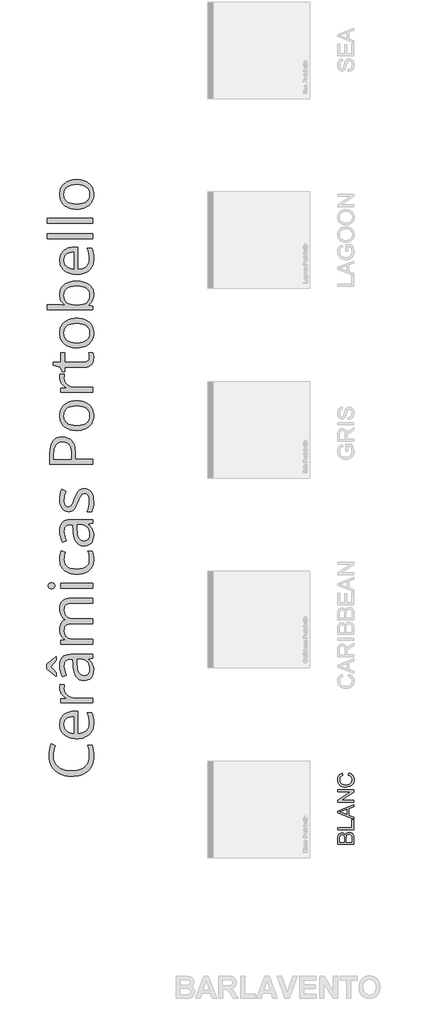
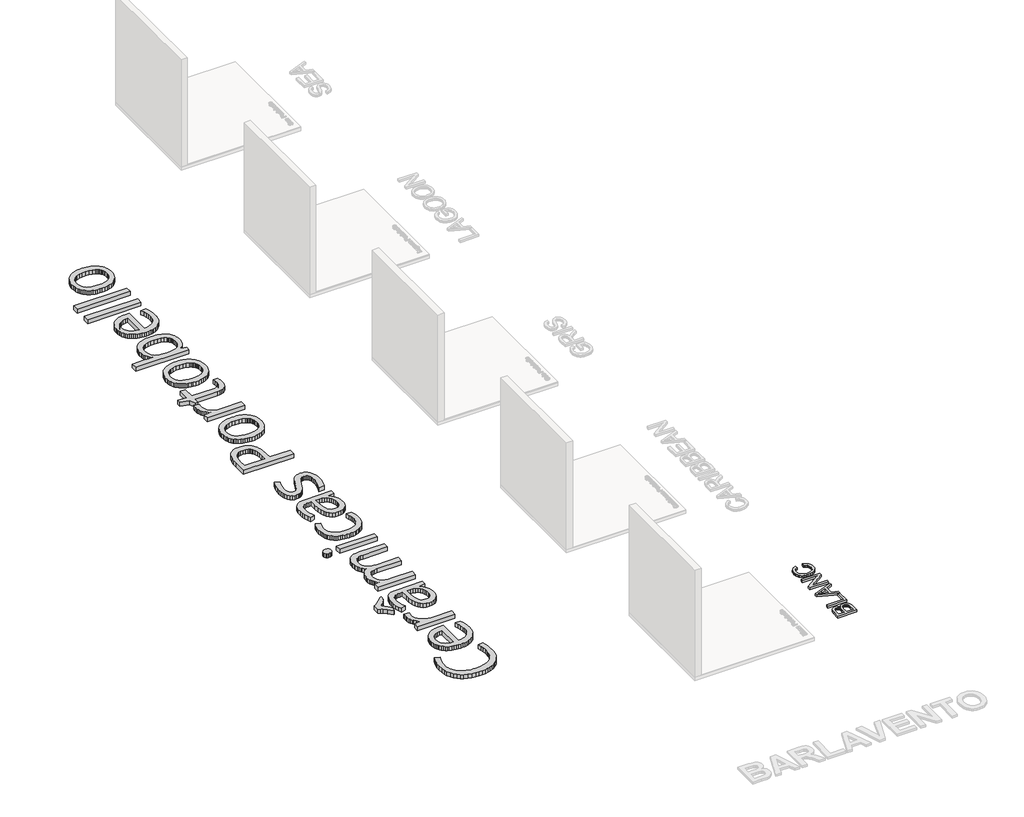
# One storey, part 2 of 7: 2 proxies.
"""IFC4 building model written with IfcOpenShell, lengths in millimetres."""

from ifc_helpers import new_model, si_unit, origin, origin_with_axes, place, context, project, spatial, polyline, outline, extrude, element, save

model = new_model("IFC4")

# Units and contexts
model_context = context("Model", 3, world=origin())
ifc_project = project(units=[si_unit("LENGTHUNIT", "METRE", prefix="MILLI")], contexts=[model_context])

# Site, building, storey
site = spatial("IfcSite", under=ifc_project)
building = spatial("IfcBuilding", under=site)
storey = spatial("IfcBuildingStorey", under=building, Name="PORTOBELLO - SHOWROOM", Elevation=0.0)

# Proxies
placement = place(None, origin())
element("IfcBuildingElementProxy", 1, Name="1200mm OpenSans", ObjectType="1200mm OpenSans", at=placement, inside=storey, context=model_context, shape_type="SweptSolid", body=[
    extrude(outline(polyline([(70089.8735067, -9882.2930273), (70091.994554, -9930.4771377), (70098.3576959, -9976.0585286), (70108.9629324, -10019.0372002), (70123.8102635, -10059.4131523), (70142.8996892, -10097.1863851), (70166.2312095, -10132.3568985), (70193.8048243, -10164.9246924), (70225.6205338, -10194.889767), (70261.1262459, -10221.7619997), (70299.7698686, -10245.0512681), (70341.5514019, -10264.757572), (70386.4708458, -10280.8809117), (70434.5282003, -10293.4212869), (70485.7234654, -10302.3786978), (70540.0566412, -10307.7531444), (70597.5277275, -10309.5446265), (70656.4691814, -10307.8179307), (70711.9685106, -10302.6378431), (70764.0257153, -10294.0043637), (70812.6407954, -10281.9174926), (70857.8137509, -10266.3772297), (70899.5445819, -10247.3835751), (70937.8332883, -10224.9365287), (70972.6798701, -10199.0360906), (71003.7350447, -10169.9414059), (71030.6495294, -10137.9116199), (71053.4233241, -10102.9467327), (71072.0564288, -10065.0467441), (71086.5488436, -10024.2116542), (71096.9005685, -9980.441463), (71103.1116034, -9933.7361705), (71105.1819484, -9884.0957767), (71102.3651525, -9818.9939903), (71093.9147648, -9749.5205367), (71079.8307854, -9675.6754159), (71060.1132143, -9597.4586279), (71176.931373, -9597.4586279), (71196.0179819, -9663.4843233), (71209.651274, -9736.8111537), (71217.8312492, -9817.439119), (71220.5579076, -9905.3682192), (71218.0199746, -9969.816509), (71210.4061753, -10030.479025), (71197.7165099, -10087.3557675), (71179.9509782, -10140.4467362), (71157.1095804, -10189.7519313), (71129.1923165, -10235.2713528), (71096.1991863, -10277.0050005), (71058.13019, -10314.9528746), (71015.3853125, -10348.7544252), (70968.3645388, -10378.0491024), (70917.0678691, -10402.8369061), (70861.4953031, -10423.1178365), (70801.646841, -10438.8918934), (70737.5224828, -10450.1590769), (70669.1222284, -10456.919387), (70596.4460779, -10459.1728237), (70505.6100444, -10454.8349581), (70420.5878775, -10441.8213611), (70341.3795773, -10420.1320328), (70267.9851439, -10389.7669732), (70201.5425626, -10351.2106712), (70143.1898192, -10304.9476157), (70092.9269135, -10250.9778066), (70050.7538455, -10189.301244), (70017.3917151, -10120.8756385), (69993.561622, -10046.6587006), (69979.2635661, -9966.6504304), (69974.4975474, -9880.8508279), (69978.4861304, -9789.3612976), (69990.4518793, -9703.8208403), (70010.3947941, -9624.2294559), (70038.3148749, -9550.5871444), (70154.0513841, -9609.7173236), (70125.9735627, -9677.8612495), (70105.9179761, -9746.0051754), (70093.8846241, -9814.1491014), (70089.8735067, -9882.2930273)])), origin_with_axes(), (0.0, 0.0, 1.0), 100.0),
    extrude(outline(polyline([(71220.5579076, -8974.4284478), (71218.6312193, -9023.0519783), (71212.8511541, -9069.050255), (71203.2177122, -9112.423278), (71189.7308935, -9153.1710472), (71172.3906981, -9191.2935626), (71151.1971259, -9226.7908243), (71126.1501769, -9259.6628323), (71097.2498512, -9289.9095864), (71064.9299352, -9317.0353308), (71029.6242157, -9340.5443092), (70991.3326925, -9360.4365217), (70950.0553656, -9376.7119683), (70905.7922352, -9389.370649), (70858.543301, -9398.4125638), (70808.3085633, -9403.8377126), (70755.0880219, -9405.6460956), (70701.3407397, -9403.9672852), (70650.4271542, -9398.9308542), (70602.3472653, -9390.5368025), (70557.1010731, -9378.7851301), (70514.6885775, -9363.675837), (70475.1097786, -9345.2089232), (70438.3646763, -9323.3843887), (70404.4532707, -9298.2022335), (70373.9896232, -9270.1920153), (70347.5877954, -9239.8832916), (70325.2477873, -9207.2760625), (70306.9695988, -9172.3703279), (70292.75323, -9135.1660879), (70282.5986809, -9095.6633425), (70276.5059514, -9053.8620916), (70274.4750416, -9009.7623353), (70276.2721573, -8968.4174054), (70281.6635047, -8929.2921106), (70290.6490835, -8892.3864509), (70303.2288939, -8857.7004265), (70319.4029359, -8825.2340371), (70339.1712094, -8794.987283), (70362.5337144, -8766.960164), (70389.490451, -8741.1526801), (70419.393556, -8717.998618), (70451.5951666, -8697.9317641), (70486.0952825, -8680.9521185), (70522.8939039, -8667.0596813), (70561.9910307, -8656.2544523), (70603.386663, -8648.5364315), (70647.0808007, -8643.9056191), (70693.0734438, -8642.362015), (70782.1292624, -8642.362015), (70782.1292624, -9263.9499956), (70856.6729486, -9257.4488307), (70921.6620631, -9241.9113846), (70977.0966061, -9217.3376574), (71001.2309132, -9201.6621883), (71022.9765774, -9183.7276489), (71042.2434612, -9163.6974134), (71058.9414272, -9141.7348559), (71084.6306056, -9092.012775), (71100.0441127, -9034.5614062), (71105.1819484, -8969.3807496), (71101.3736403, -8896.7524846), (71089.9487162, -8824.5298382), (71070.9071761, -8752.7128104), (71044.2490199, -8681.3014012), (71163.9515776, -8681.3014012), (71189.9562372, -8751.7889014), (71207.3978373, -8818.3103529), (71217.2678901, -8889.6090902), (71220.5579076, -8974.4284478)]), holes=[polyline([(70389.8510008, -9011.2045348), (70394.4480117, -9062.729365), (70408.2390444, -9108.7783441), (70431.2240987, -9149.351472), (70463.4031749, -9184.4487486), (70503.6946232, -9213.4842806), (70551.016794, -9235.8721742), (70605.3696873, -9251.6124296), (70666.7533031, -9260.7050467), (70666.7533031, -8788.7452633), (70603.6120066, -8792.350762), (70548.3126699, -8803.1672582), (70500.8552929, -8821.1947519), (70461.2398756, -8846.4332429), (70430.0072429, -8878.3644411), (70407.6982195, -8916.4700557), (70394.3128055, -8960.750087), (70389.8510008, -9011.2045348)])]), origin_with_axes(), (0.0, 0.0, 1.0), 100.0),
    extrude(outline(polyline([(70274.4750416, -7995.1749934), (70276.7284783, -7937.6672887), (70283.4887884, -7886.2889318), (70402.1096965, -7905.3980751), (70392.9156748, -7958.5791813), (70389.8510008, -8004.90984), (70395.4958598, -8058.2374196), (70412.4304366, -8107.5313475), (70440.6547314, -8152.7916237), (70480.168744, -8194.0182482), (70528.1106099, -8228.326822), (70581.6184644, -8252.8329462), (70640.6923076, -8267.5366207), (70705.3321395, -8272.4378455), (71197.4827158, -8272.4378455), (71197.4827158, -8408.7256974), (70297.5502334, -8408.7256974), (70297.5502334, -8296.2341371), (70459.0765764, -8280.7304926), (70459.0765764, -8274.2405949), (70417.2753255, -8247.53737), (70380.5668416, -8218.2652272), (70348.9511247, -8186.4241665), (70322.4281746, -8152.014188), (70301.4486789, -8115.4409103), (70286.4633248, -8077.109952), (70277.4721124, -8037.021313), (70274.4750416, -7995.1749934)])), origin_with_axes(), (0.0, 0.0, 1.0), 100.0),
    extrude(outline(polyline([(71197.4827158, -7155.8148896), (71065.8820122, -7183.21668), (71065.8820122, -7190.0671276), (71107.4804538, -7224.105289), (71141.7777605, -7258.0758473), (71168.7739322, -7291.9788025), (71188.468969, -7325.8141546), (71202.5078796, -7361.7226685), (71212.535673, -7401.8451091), (71218.552349, -7446.1814762), (71220.5579076, -7494.73177), (71216.0848358, -7558.8420443), (71202.6656202, -7615.6061149), (71180.3002609, -7665.0239818), (71148.9887579, -7707.0956451), (71109.4296766, -7740.6943863), (71062.3215822, -7764.6934872), (71007.664475, -7779.0929478), (70945.4583547, -7783.892768), (70878.9087353, -7776.9859845), (70820.7757019, -7756.265634), (70771.0592546, -7721.7317165), (70729.7593934, -7673.384232), (70696.8761183, -7611.2231805), (70672.4094292, -7535.248562), (70656.3593263, -7445.4603765), (70648.7258095, -7341.858624), (70643.6781113, -7187.1827286), (70589.5956303, -7187.1827286), (70541.9016425, -7190.0671276), (70500.8552929, -7198.7203245), (70466.4565816, -7213.1423194), (70438.7055086, -7233.3331123), (70417.3316615, -7259.8785967), (70402.0646278, -7293.3646661), (70392.9044076, -7333.7913206), (70389.8510008, -7381.1585601), (70394.1775993, -7440.153533), (70407.1573947, -7502.8441422), (70428.7903871, -7569.2303875), (70459.0765764, -7639.312269), (70353.7960136, -7681.857154), (70320.670494, -7611.2795164), (70295.5672091, -7534.392256), (70279.7480835, -7454.1699093), (70274.4750416, -7373.5870128), (70278.981915, -7297.3870506), (70292.5025352, -7231.7557066), (70315.0369022, -7176.6929807), (70329.6842408, -7153.1248496), (70346.5850161, -7132.198873), (70365.9702054, -7113.8192799), (70388.0707858, -7097.8902992), (70412.8867576, -7084.4119309), (70440.4181205, -7073.384175), (70503.6270201, -7058.6805005), (70577.6974845, -7053.7792757), (71197.4827158, -7053.7792757), (71197.4827158, -7155.8148896)]), holes=[polyline([(71105.1819484, -7467.6905296), (71100.8215483, -7406.4421199), (71087.7403483, -7352.1342954), (71065.9383482, -7304.7670558), (71035.415548, -7264.3404013), (70997.0507881, -7232.0035846), (70951.7229088, -7208.9058584), (70899.4319101, -7195.0472227), (70840.1777919, -7190.4276774), (70759.0540705, -7190.4276774), (70764.8228685, -7329.2393784), (70770.1409791, -7406.0590357), (70780.326513, -7471.3861658), (70795.3794702, -7525.2207686), (70815.2998507, -7567.5628443), (70840.7411511, -7599.5841799), (70872.356868, -7622.4565624), (70910.1470016, -7636.179992), (70954.1115517, -7640.7544685), (70988.8595457, -7637.9038711), (71019.1908037, -7629.3520788), (71045.1053258, -7615.0990916), (71066.603112, -7595.1449096), (71083.4813529, -7570.0754262), (71095.5372393, -7540.4765351), (71102.7707711, -7506.3482362), (71105.1819484, -7467.6905296)])]), origin_with_axes(), (0.0, 0.0, 1.0), 100.0),
    extrude(outline(polyline([(70162.704581, -7665.6324097), (70063.1928161, -7577.2976909), (69993.9672406, -7519.9702611), (69944.7521829, -7483.9152738), (69905.2719719, -7459.3978825), (69905.2719719, -7323.4705805), (69945.8338326, -7298.8179829), (69996.8516396, -7260.9151776), (70066.437765, -7201.9202046), (70162.704581, -7113.9911044), (70182.1742741, -7113.9911044), (70182.1742741, -7211.33957), (70154.4570027, -7249.6930628), (70118.5372216, -7292.6435664), (70022.0901306, -7392.3356062), (70119.7991462, -7492.8388832), (70155.4034461, -7534.9105465), (70182.1742741, -7571.5288929), (70182.1742741, -7665.6324097), (70162.704581, -7665.6324097)])), origin_with_axes(), (0.0, 0.0, 1.0), 100.0),
    extrude(outline(polyline([(71197.4827158, -5620.2329816), (70606.9020242, -5620.2329816), (70556.0306906, -5623.1173806), (70511.9422015, -5631.7705776), (70474.6365569, -5646.1925725), (70444.1137567, -5666.3833653), (70420.373801, -5692.6584373), (70403.4166898, -5725.3332695), (70393.2424231, -5764.407862), (70389.8510008, -5809.8822147), (70394.4592789, -5869.5306843), (70408.2841131, -5920.841438), (70431.3255034, -5963.814476), (70463.5834498, -5998.4497981), (70505.4185022, -6025.1079543), (70557.1912105, -6044.1494945), (70618.9015747, -6055.5744186), (70690.5495947, -6059.3827266), (71197.4827158, -6059.3827266), (71197.4827158, -6196.0311284), (70606.9020242, -6196.0311284), (70556.0306906, -6198.9155274), (70511.9422015, -6207.5687243), (70474.6365569, -6221.9907192), (70444.1137567, -6242.1815121), (70420.373801, -6268.5016528), (70403.4166898, -6301.3116912), (70393.2424231, -6340.6116274), (70389.8510008, -6386.4014612), (70394.6958898, -6446.4555494), (70409.2305565, -6497.9015094), (70433.4550011, -6540.7393411), (70449.2008901, -6558.9302089), (70467.3692235, -6574.9690447), (70512.3027514, -6601.1539792), (70569.5851124, -6619.8575038), (70639.2163066, -6631.0796186), (70721.1963339, -6634.8203235), (71197.4827158, -6634.8203235), (71197.4827158, -6771.1081754), (70297.5502334, -6771.1081754), (70297.5502334, -6660.0588146), (70412.9261927, -6638.0652724), (70412.9261927, -6631.5753747), (70382.0879114, -6610.1339244), (70354.8325945, -6584.74896), (70331.1602419, -6555.4204812), (70311.0708536, -6522.1484883), (70295.0601859, -6485.8568902), (70283.6239946, -6447.4695959), (70276.7622798, -6406.9866055), (70274.4750416, -6364.407919), (70276.8411501, -6313.7844634), (70283.9394757, -6267.7354843), (70295.7700184, -6226.2609818), (70312.3327782, -6189.3609558), (70333.6277551, -6157.0354062), (70359.654949, -6129.2843332), (70390.41436, -6106.1077367), (70425.9059881, -6087.5056167), (70425.9059881, -6081.015719), (70392.7579342, -6058.5602222), (70363.2604477, -6031.5753177), (70337.4135287, -6000.0610054), (70315.2171772, -5964.0172853), (70297.3924929, -5924.3680665), (70284.6605755, -5882.037258), (70277.021425, -5837.0248598), (70274.4750416, -5789.3308719), (70279.4100679, -5717.5251113), (70294.2151471, -5655.3415255), (70305.3189565, -5627.8580481), (70318.890279, -5602.7801143), (70334.9291148, -5580.1077243), (70353.4354637, -5559.8408779), (70374.6572039, -5541.9683081), (70398.8422133, -5526.4787475), (70425.990492, -5513.3721963), (70456.10204, -5502.6486544), (70525.2149437, -5488.3505985), (70606.1809245, -5483.5845799), (71197.4827158, -5483.5845799), (71197.4827158, -5620.2329816)])), origin_with_axes(), (0.0, 0.0, 1.0), 100.0),
    extrude(outline(polyline([(71197.4827158, -5069.6733259), (71197.4827158, -5205.9611778), (70297.5502334, -5205.9611778), (70297.5502334, -5069.6733259), (71197.4827158, -5069.6733259)])), origin_with_axes(), (0.0, 0.0, 1.0), 100.0),
    extrude(outline(polyline([(70043.3625731, -5217.4987738), (70021.1549544, -5216.0565743), (70002.1246814, -5211.7299758), (69986.2717542, -5204.5189783), (69973.5961728, -5194.4235819), (69956.9658099, -5168.4639911), (69951.4223556, -5136.7356023), (69957.0559473, -5106.1790006), (69973.9567226, -5080.1292723), (69986.7449759, -5069.7183947), (70002.5753688, -5062.2820535), (70021.4479012, -5057.8202489), (70043.3625731, -5056.3329806), (70065.2997795, -5057.8202489), (70084.239915, -5062.2820535), (70100.1829796, -5069.7183947), (70113.1289735, -5080.1292723), (70130.3001612, -5106.1790006), (70136.0238904, -5136.7356023), (70130.3001612, -5168.4639911), (70123.1454997, -5182.1648862), (70113.1289735, -5194.4235819), (70100.1829796, -5204.5189783), (70084.239915, -5211.7299758), (70065.2997795, -5216.0565743), (70043.3625731, -5217.4987738)])), origin_with_axes(), (0.0, 0.0, 1.0), 100.0),
    extrude(outline(polyline([(71220.5579076, -4399.7716624), (71218.6509368, -4447.6853603), (71212.9300244, -4492.8160639), (71203.3951703, -4535.1637732), (71190.0463747, -4574.7284881), (71172.8836374, -4611.5102087), (71151.9069584, -4645.508935), (71127.1163379, -4676.724667), (71098.5117757, -4705.1574046), (71066.4200203, -4730.5085675), (71031.1678198, -4752.4795754), (70992.7551744, -4771.0704282), (70951.182084, -4786.281126), (70906.4485486, -4798.1116687), (70858.5545682, -4806.5620563), (70807.5001429, -4811.6322889), (70753.2852726, -4813.3223664), (70697.6732715, -4811.6069377), (70645.3118529, -4806.4606517), (70596.2010167, -4797.8835082), (70550.3407629, -4785.8755074), (70507.7310917, -4770.4366491), (70468.3720028, -4751.5669335), (70432.2634964, -4729.2663605), (70399.4055725, -4703.5349302), (70370.1249793, -4674.6317876), (70344.7484652, -4642.8160782), (70323.2760302, -4608.0878017), (70305.7076743, -4570.4469584), (70292.0433975, -4529.8935481), (70282.2831997, -4486.4275709), (70276.4270811, -4440.0490267), (70274.4750416, -4390.7579156), (70277.8101279, -4325.1829075), (70287.8153869, -4259.6980368), (70302.3275192, -4201.3340262), (70319.1832258, -4157.121598), (70432.035336, -4199.3059331), (70415.4951105, -4247.12386), (70401.9294216, -4298.9979729), (70392.870606, -4349.7904363), (70389.8510008, -4394.3634143), (70395.4902262, -4459.3468953), (70412.4079023, -4515.6659121), (70440.604029, -4563.3204648), (70480.0786065, -4602.3105534), (70530.8316347, -4632.6361778), (70592.8631136, -4654.2973382), (70666.1730432, -4667.2940344), (70750.7614235, -4671.6262664), (70831.4119231, -4667.4010726), (70902.1022325, -4654.7254911), (70962.8323517, -4633.599522), (71013.6022807, -4604.0231653), (71035.0662653, -4586.1055267), (71053.6683853, -4566.1541615), (71069.4086407, -4544.1690696), (71082.2870315, -4520.1502511), (71092.3035576, -4494.097706), (71099.4582191, -4466.0114343), (71105.1819484, -4403.737711), (71102.1398088, -4346.4328156), (71093.0133902, -4288.4518892), (71077.8026924, -4229.7949317), (71056.5077155, -4170.4619433), (71175.1286237, -4170.4619433), (71195.0039354, -4219.0009699), (71209.2005867, -4273.398932), (71217.7185774, -4333.6558295), (71220.5579076, -4399.7716624)])), origin_with_axes(), (0.0, 0.0, 1.0), 100.0),
    extrude(outline(polyline([(71197.4827158, -3394.5586172), (71065.8820122, -3421.9604075), (71065.8820122, -3428.8108551), (71107.4804538, -3462.8490165), (71141.7777605, -3496.8195748), (71168.7739322, -3530.72253), (71188.468969, -3564.5578822), (71202.5078796, -3600.4663961), (71212.535673, -3640.5888366), (71218.552349, -3684.9252037), (71220.5579076, -3733.4754975), (71216.0848358, -3797.5857718), (71202.6656202, -3854.3498424), (71180.3002609, -3903.7677093), (71148.9887579, -3945.8393726), (71109.4296766, -3979.4381139), (71062.3215822, -4003.4372148), (71007.664475, -4017.8366753), (70945.4583547, -4022.6364955), (70878.9087353, -4015.729712), (70820.7757019, -3995.0093615), (70771.0592546, -3960.475444), (70729.7593934, -3912.1279595), (70696.8761183, -3849.966908), (70672.4094292, -3773.9922895), (70656.3593263, -3684.204104), (70648.7258095, -3580.6023515), (70643.6781113, -3425.9264561), (70589.5956303, -3425.9264561), (70541.9016425, -3428.8108551), (70500.8552929, -3437.464052), (70466.4565816, -3451.8860469), (70438.7055086, -3472.0768398), (70417.3316615, -3498.6223242), (70402.0646278, -3532.1083936), (70392.9044076, -3572.5350481), (70389.8510008, -3619.9022876), (70394.1775993, -3678.8972606), (70407.1573947, -3741.5878697), (70428.7903871, -3807.974115), (70459.0765764, -3878.0559965), (70353.7960136, -3920.6008815), (70320.670494, -3850.0232439), (70295.5672091, -3773.1359835), (70279.7480835, -3692.9136369), (70274.4750416, -3612.3307403), (70278.981915, -3536.1307781), (70292.5025352, -3470.4994341), (70315.0369022, -3415.4367082), (70329.6842408, -3391.8685771), (70346.5850161, -3370.9426005), (70365.9702054, -3352.5630074), (70388.0707858, -3336.6340267), (70412.8867576, -3323.1556584), (70440.4181205, -3312.1279025), (70503.6270201, -3297.424228), (70577.6974845, -3292.5230032), (71197.4827158, -3292.5230032), (71197.4827158, -3394.5586172)]), holes=[polyline([(71105.1819484, -3706.4342571), (71100.8215483, -3645.1858475), (71087.7403483, -3590.8780229), (71065.9383482, -3543.5107833), (71035.415548, -3503.0841289), (70997.0507881, -3470.7473121), (70951.7229088, -3447.6495859), (70899.4319101, -3433.7909502), (70840.1777919, -3429.1714049), (70759.0540705, -3429.1714049), (70764.8228685, -3567.983106), (70770.1409791, -3644.8027632), (70780.326513, -3710.1298933), (70795.3794702, -3763.9644962), (70815.2998507, -3806.3065718), (70840.7411511, -3838.3279074), (70872.356868, -3861.20029), (70910.1470016, -3874.9237195), (70954.1115517, -3879.498196), (70988.8595457, -3876.6475986), (71019.1908037, -3868.0958063), (71045.1053258, -3853.8428191), (71066.603112, -3833.8886371), (71083.4813529, -3808.8191538), (71095.5372393, -3779.2202627), (71102.7707711, -3745.0919638), (71105.1819484, -3706.4342571)])]), origin_with_axes(), (0.0, 0.0, 1.0), 100.0),
    extrude(outline(polyline([(70954.8326514, -2425.0400094), (71014.9881443, -2430.9327463), (71042.3195147, -2438.2986676), (71067.8199678, -2448.6109573), (71091.4895036, -2461.8696155), (71113.3281221, -2478.0746422), (71133.3358232, -2497.2260374), (71151.512607, -2519.3238011), (71181.719926, -2571.2091812), (71203.2965825, -2632.5815299), (71216.2425764, -2703.440847), (71220.5579076, -2783.7871327), (71216.9974777, -2868.8092996), (71206.3161877, -2943.9614137), (71188.5140377, -3009.243475), (71163.5910278, -3064.6554836), (71035.9563728, -3064.6554836), (71064.6651564, -2996.962245), (71086.6136299, -2924.4015831), (71100.5398688, -2850.8494091), (71105.1819484, -2780.181634), (71103.0411835, -2729.4004379), (71096.6188889, -2684.8612614), (71085.9150645, -2646.5641046), (71070.9297105, -2614.5089675), (71051.5501548, -2589.1916061), (71027.6637257, -2571.1077765), (70999.2704233, -2560.2574788), (70966.3702474, -2556.6407129), (70940.6585346, -2559.5138447), (70916.8847773, -2568.1332401), (70895.0489757, -2582.4988991), (70875.1511296, -2602.6108217), (70855.3659553, -2631.0379257), (70833.8681691, -2670.349129), (70785.7347611, -2781.6238335), (70741.2068518, -2889.8789328), (70702.8082904, -2961.53822), (70665.08576, -3008.0942223), (70644.4330126, -3026.2681893), (70622.5859437, -3041.0394669), (70599.026263, -3052.4756582), (70573.2356799, -3060.6443663), (70545.2141944, -3065.5455911), (70514.9618067, -3067.1793327), (70462.1863191, -3061.545741), (70415.2697669, -3044.6449657), (70374.2121501, -3016.4770069), (70339.0134688, -2977.0418645), (70310.7779069, -2927.7817382), (70290.6096484, -2870.1388273), (70278.5086933, -2804.1131318), (70274.4750416, -2729.7046518), (70278.2157465, -2657.0763868), (70289.4378613, -2585.2142903), (70308.1413859, -2514.1183623), (70334.3263204, -2443.7886027), (70445.7362311, -2492.8233854), (70421.2864429, -2559.5251119), (70403.8223084, -2622.9818895), (70393.3438277, -2683.1937182), (70389.8510008, -2740.1605981), (70391.7776892, -2786.0180351), (70397.5577544, -2825.8813304), (70407.1911963, -2859.750484), (70420.678015, -2887.6254961), (70437.5675231, -2909.3936947), (70457.4090332, -2924.9424079), (70480.2025455, -2934.2716359), (70505.9480599, -2937.3813785), (70539.9749541, -2932.7392989), (70568.5034628, -2918.8130601), (70593.6518164, -2894.5210124), (70617.5382455, -2858.7815063), (70646.0667542, -2798.2992651), (70685.1413466, -2699.7790124), (70714.7515049, -2625.7198151), (70744.4518007, -2564.7080163), (70774.2422339, -2516.743616), (70804.1228046, -2481.8266143), (70835.9863996, -2456.9824746), (70871.7259058, -2439.2366606), (70911.341323, -2428.5891722), (70954.8326514, -2425.0400094)])), origin_with_axes(), (0.0, 0.0, 1.0), 100.0),
    extrude(outline(polyline([(70341.176768, -979.9561194), (70384.5976765, -981.9053421), (70425.4440336, -987.7530104), (70463.7158392, -997.4991241), (70499.4130934, -1011.1436834), (70532.5357962, -1028.6866881), (70563.0839475, -1050.1281384), (70591.0575474, -1075.4680341), (70616.4565959, -1104.7063754), (70639.0613828, -1137.5783833), (70658.6521982, -1173.8192791), (70675.2290419, -1213.4290628), (70688.7919141, -1256.4077343), (70699.3408147, -1302.7552937), (70706.8757436, -1352.471741), (70711.396701, -1405.5570762), (70712.9036868, -1462.0112992), (70712.9036868, -1603.7073992), (71197.4827158, -1603.7073992), (71197.4827158, -1743.2402), (69997.5727393, -1743.2402), (69997.5727393, -1431.0040102), (70002.9415522, -1325.2896608), (70019.0479911, -1233.670558), (70045.8920558, -1156.1467017), (70083.4737465, -1092.7180921), (70131.793063, -1043.384729), (70190.8500055, -1008.1466126), (70260.6445738, -987.0037427), (70341.176768, -979.9561194)]), holes=[polyline([(70597.5277275, -1603.7073992), (70597.5277275, -1477.5149438), (70593.809557, -1390.7576306), (70582.6550453, -1316.8899755), (70564.0641925, -1255.9119782), (70538.0369985, -1207.823639), (70522.0375979, -1188.3032435), (70503.7847606, -1171.3855675), (70483.2784866, -1157.0706108), (70460.5187759, -1145.3583735), (70408.2390444, -1129.7420571), (70346.945566, -1124.5366184), (70291.5898933, -1129.4378432), (70243.7832336, -1144.1415177), (70203.5255869, -1168.6476419), (70170.8169532, -1202.9562157), (70145.4995918, -1247.608064), (70127.4157622, -1303.1440116), (70116.5654645, -1369.5640584), (70112.9486986, -1446.8682046), (70112.9486986, -1603.7073992), (70597.5277275, -1603.7073992)])]), origin_with_axes(), (0.0, 0.0, 1.0), 100.0),
    extrude(outline(polyline([(70746.7953749, 27.4202251), (70801.0609475, 25.6878956), (70852.2674798, 20.4909072), (70900.4149718, 11.8292599), (70945.5034235, -0.2970464), (70987.5328348, -15.8880116), (71026.5032058, -34.9436357), (71062.4145365, -57.4639188), (71095.2668269, -83.4488608), (71124.6319239, -112.481576), (71150.0816747, -144.1451784), (71171.6160792, -178.4396683), (71189.2351375, -215.3650455), (71202.9388494, -254.9213101), (71212.7272151, -297.108462), (71218.6002345, -341.9265012), (71220.5579076, -389.3754278), (71216.9636761, -448.0661868), (71206.1809815, -503.3542564), (71188.2098238, -555.2396365), (71163.0502029, -603.7223272), (71131.1753408, -647.8333507), (71093.0584589, -686.6037292), (71048.6995574, -720.0334627), (70998.0986362, -748.1225512), (70942.1007341, -770.3639715), (70881.5508898, -786.2507003), (70816.4491034, -795.7827375), (70746.7953749, -798.9600833), (70692.5410694, -797.2418378), (70641.3683386, -792.0871013), (70593.2771826, -783.4958739), (70548.2676012, -771.4681555), (70506.3395945, -756.0039461), (70467.4931625, -737.1032457), (70431.7283052, -714.7660544), (70399.0450226, -688.9923721), (70369.8489333, -660.165283), (70344.5456559, -628.6678715), (70323.1351904, -594.5001375), (70305.6175368, -557.6620809), (70291.9926951, -518.1537019), (70282.2606654, -475.9750004), (70276.4214475, -431.1259764), (70274.4750416, -383.6066299), (70276.4665163, -337.6731394), (70282.4409403, -294.1564599), (70292.3983138, -253.0565912), (70306.3386366, -214.3735333), (70324.2619088, -178.1072864), (70346.1681303, -144.2578503), (70372.0573013, -112.825225), (70401.9294216, -83.8094107), (70435.1985977, -57.7399648), (70471.2789362, -35.146445), (70510.1704369, -16.0288514), (70551.8730999, -0.3871839), (70596.3869252, 11.7785575), (70643.7119128, 20.4683728), (70693.8480627, 25.682262), (70746.7953749, 27.4202251)]), holes=[polyline([(70745.7137252, -657.2639833), (70828.2796461, -652.9599192), (70900.3896207, -640.0477269), (70962.0436489, -618.5274063), (70988.9496831, -604.539198), (71013.2417308, -588.3989576), (71034.7902193, -570.1742882), (71053.465576, -549.932793), (71069.2678009, -527.674472), (71082.196894, -503.3993251), (71092.2528553, -477.1073523), (71099.4356848, -448.7985537), (71105.1819484, -386.130479), (71099.4582191, -323.4398699), (71092.3035576, -295.1029033), (71082.2870315, -268.7714954), (71069.4086407, -244.4456462), (71053.6683853, -222.1253556), (71035.0662653, -201.8106237), (71013.6022807, -183.5014505), (70989.3834697, -167.2767062), (70962.5168706, -153.2152612), (70900.840308, -131.5822688), (70828.5725929, -118.6024734), (70745.7137252, -114.2758749), (70663.6998964, -118.6024734), (70592.1645482, -131.5822688), (70531.1076807, -153.2152612), (70504.5086772, -167.2767062), (70480.5292938, -183.5014505), (70459.2765689, -201.8387917), (70440.8575407, -222.2380274), (70425.272209, -244.6991578), (70412.5205741, -269.2221827), (70402.6026358, -295.8071023), (70395.5183942, -324.4539164), (70389.8510008, -387.9332283), (70395.4395239, -450.5449672), (70402.4251777, -478.7833459), (70412.205093, -504.9767308), (70424.7792698, -529.1251219), (70440.1477081, -551.2285191), (70458.3104079, -571.2869226), (70479.2673693, -589.3003323), (70502.9904242, -605.229313), (70529.4514047, -619.0344296), (70590.5871425, -640.2730705), (70662.6745827, -653.0162551), (70745.7137252, -657.2639833)])]), origin_with_axes(), (0.0, 0.0, 1.0), 100.0),
    extrude(outline(polyline([(70274.4750416, 681.0971443), (70276.7284783, 738.6048491), (70283.4887884, 789.9832059), (70402.1096965, 770.8740627), (70392.9156748, 717.6929564), (70389.8510008, 671.3622978), (70395.4958598, 618.0347182), (70412.4304366, 568.7407903), (70440.6547314, 523.480514), (70480.168744, 482.2538895), (70528.1106099, 447.9453157), (70581.6184644, 423.4391915), (70640.6923076, 408.735517), (70705.3321395, 403.8342922), (71197.4827158, 403.8342922), (71197.4827158, 267.5464403), (70297.5502334, 267.5464403), (70297.5502334, 380.0380006), (70459.0765764, 395.5416451), (70459.0765764, 402.0315428), (70417.2753255, 428.7347678), (70380.5668416, 458.0069106), (70348.9511247, 489.8479712), (70322.4281746, 524.2579497), (70301.4486789, 560.8312274), (70286.4633248, 599.1621858), (70277.4721124, 639.2508247), (70274.4750416, 681.0971443)])), origin_with_axes(), (0.0, 0.0, 1.0), 100.0),
    extrude(outline(polyline([(71105.1819484, 1253.6503423), (71099.7737003, 1324.3181173), (71088.5966542, 1378.4005982), (71195.3194166, 1378.4005982), (71205.2345381, 1350.7283955), (71213.3469102, 1312.4199715), (71218.7551583, 1271.0468736), (71220.5579076, 1234.1806491), (71216.2763779, 1172.3238116), (71203.4317887, 1118.7145524), (71182.02414, 1073.3528715), (71152.0534318, 1036.238769), (71113.5196642, 1007.3722448), (71066.4228371, 986.753299), (71010.7629504, 974.3819315), (70946.5400044, 970.2581423), (70412.9261927, 970.2581423), (70412.9261927, 839.7390884), (70345.5033665, 839.7390884), (70287.0942871, 969.5370425), (70089.8735067, 1027.5855721), (70089.8735067, 1106.9065441), (70297.5502334, 1106.9065441), (70297.5502334, 1371.9107005), (70412.9261927, 1371.9107005), (70412.9261927, 1106.9065441), (70938.2473573, 1106.9065441), (70976.2741017, 1109.3515229), (71009.5911634, 1116.6864594), (71038.1985423, 1128.9113535), (71062.0962386, 1146.0262053), (71080.9462366, 1167.4225868), (71094.4105209, 1192.4920701), (71102.4890915, 1221.2346553), (71105.1819484, 1253.6503423)])), origin_with_axes(), (0.0, 0.0, 1.0), 100.0),
    extrude(outline(polyline([(70746.7953749, 2334.9394106), (70801.0609475, 2333.2070812), (70852.2674798, 2328.0100928), (70900.4149718, 2319.3484454), (70945.5034235, 2307.2221392), (70987.5328348, 2291.631174), (71026.5032058, 2272.5755498), (71062.4145365, 2250.0552668), (71095.2668269, 2224.0703248), (71124.6319239, 2195.0376096), (71150.0816747, 2163.3740071), (71171.6160792, 2129.0795173), (71189.2351375, 2092.1541401), (71202.9388494, 2052.5978755), (71212.7272151, 2010.4107236), (71218.6002345, 1965.5926844), (71220.5579076, 1918.1437577), (71216.9636761, 1859.4529988), (71206.1809815, 1804.1649292), (71188.2098238, 1752.2795491), (71163.0502029, 1703.7968584), (71131.1753408, 1659.6858349), (71093.0584589, 1620.9154564), (71048.6995574, 1587.4857229), (70998.0986362, 1559.3966344), (70942.1007341, 1537.1552141), (70881.5508898, 1521.2684853), (70816.4491034, 1511.7364481), (70746.7953749, 1508.5591023), (70692.5410694, 1510.2773478), (70641.3683386, 1515.4320842), (70593.2771826, 1524.0233117), (70548.2676012, 1536.0510301), (70506.3395945, 1551.5152395), (70467.4931625, 1570.4159398), (70431.7283052, 1592.7531312), (70399.0450226, 1618.5268135), (70369.8489333, 1647.3539025), (70344.5456559, 1678.8513141), (70323.1351904, 1713.0190481), (70305.6175368, 1749.8571046), (70291.9926951, 1789.3654837), (70282.2606654, 1831.5441852), (70276.4214475, 1876.3932092), (70274.4750416, 1923.9125557), (70276.4665163, 1969.8460461), (70282.4409403, 2013.3627257), (70292.3983138, 2054.4625944), (70306.3386366, 2093.1456522), (70324.2619088, 2129.4118992), (70346.1681303, 2163.2613353), (70372.0573013, 2194.6939605), (70401.9294216, 2223.7097749), (70435.1985977, 2249.7792208), (70471.2789362, 2272.3727405), (70510.1704369, 2291.4903342), (70551.8730999, 2307.1320017), (70596.3869252, 2319.2977431), (70643.7119128, 2327.9875584), (70693.8480627, 2333.2014476), (70746.7953749, 2334.9394106)]), holes=[polyline([(70745.7137252, 1650.2552023), (70828.2796461, 1654.5592664), (70900.3896207, 1667.4714587), (70962.0436489, 1688.9917792), (70988.9496831, 1702.9799876), (71013.2417308, 1719.120228), (71034.7902193, 1737.3448973), (71053.465576, 1757.5863925), (71069.2678009, 1779.8447136), (71082.196894, 1804.1198605), (71092.2528553, 1830.4118332), (71099.4356848, 1858.7206318), (71105.1819484, 1921.3887066), (71099.4582191, 1984.0793157), (71092.3035576, 2012.4162823), (71082.2870315, 2038.7476902), (71069.4086407, 2063.0735394), (71053.6683853, 2085.39383), (71035.0662653, 2105.7085619), (71013.6022807, 2124.0177351), (70989.3834697, 2140.2424793), (70962.5168706, 2154.3039244), (70900.840308, 2175.9369168), (70828.5725929, 2188.9167122), (70745.7137252, 2193.2433106), (70663.6998964, 2188.9167122), (70592.1645482, 2175.9369168), (70531.1076807, 2154.3039244), (70504.5086772, 2140.2424793), (70480.5292938, 2124.0177351), (70459.2765689, 2105.6803939), (70440.8575407, 2085.2811581), (70425.272209, 2062.8200278), (70412.5205741, 2038.2970028), (70402.6026358, 2011.7120833), (70395.5183942, 1983.0652692), (70389.8510008, 1919.5859572), (70395.4395239, 1856.9742184), (70402.4251777, 1828.7358397), (70412.205093, 1802.5424548), (70424.7792698, 1778.3940637), (70440.1477081, 1756.2906664), (70458.3104079, 1736.232263), (70479.2673693, 1718.2188533), (70502.9904242, 1702.2898726), (70529.4514047, 1688.484756), (70590.5871425, 1667.246115), (70662.6745827, 1654.5029305), (70745.7137252, 1650.2552023)])]), origin_with_axes(), (0.0, 0.0, 1.0), 100.0),
    extrude(outline(polyline([(70274.4750416, 2996.1878772), (70276.3989132, 3039.7327248), (70282.1705279, 3080.770624), (70291.7898858, 3119.3015748), (70305.256987, 3155.3255773), (70322.5718312, 3188.8426315), (70343.7344187, 3219.8527374), (70368.7447493, 3248.3558949), (70397.6028231, 3274.3521041), (70429.9762582, 3297.5484181), (70465.5326726, 3317.6518904), (70504.2720663, 3334.6625207), (70546.1944394, 3348.5803091), (70591.2997919, 3359.4052557), (70639.5881236, 3367.1373604), (70691.0594348, 3371.7766232), (70745.7137252, 3373.3230441), (70800.4778708, 3371.7625392), (70852.0984721, 3367.0810245), (70900.5755292, 3359.2784999), (70945.9090421, 3348.3549655), (70988.0990108, 3334.3104212), (71027.1454353, 3317.1448671), (71063.0483156, 3296.8583032), (71095.8076517, 3273.4507294), (71125.0459929, 3247.2770621), (71150.3858887, 3218.6922175), (71171.8273389, 3187.6961956), (71189.3703437, 3154.2889964), (71203.0149029, 3118.47062), (71212.7610167, 3080.2410663), (71218.6086849, 3039.6003354), (71220.5579076, 2996.5484271), (71218.4960131, 2953.1585034), (71212.3103293, 2911.6840008), (71202.0008564, 2872.1249195), (71187.5675943, 2834.4812593), (71168.8528025, 2799.2938452), (71145.6987403, 2767.1035019), (71118.1054079, 2737.9102293), (71086.0728051, 2711.7140277), (71086.0728051, 2701.6186312), (71197.4827158, 2672.7746414), (71197.4827158, 2575.0656259), (69928.3471637, 2575.0656259), (69928.3471637, 2711.3534778), (70229.4063075, 2711.3534778), (70325.4928486, 2709.7310034), (70411.1234433, 2704.8635801), (70411.1234433, 2711.3534778), (70379.0964742, 2736.8623813), (70351.3397676, 2765.2556838), (70327.8533235, 2796.5333852), (70308.637142, 2830.6954857), (70293.6912231, 2867.7419851), (70283.0155667, 2907.6728835), (70276.6101728, 2950.4881809), (70274.4750416, 2996.1878772)]), holes=[polyline([(70389.8510008, 2977.078734), (70394.9437678, 2911.3572525), (70410.2220687, 2855.5283581), (70421.6807943, 2831.3236311), (70435.6859034, 2809.5920509), (70452.237396, 2790.3336175), (70471.3352721, 2773.5483308), (70493.4471197, 2758.9714121), (70519.0405271, 2746.3380826), (70580.672021, 2726.902191), (70656.2297537, 2715.2406561), (70745.7137252, 2711.3534778), (70835.456842, 2715.3533279), (70911.4314605, 2727.3528784), (70973.6375807, 2747.3521291), (70999.577454, 2760.3516421), (71022.0752027, 2775.3510802), (71041.5533462, 2792.5532526), (71058.4344039, 2812.1609688), (71072.7183758, 2834.1742286), (71084.405262, 2858.5930321), (71099.9877768, 2914.6472701), (71105.1819484, 2980.3236828), (71099.3568145, 3039.8932821), (71092.0753971, 3066.6274918), (71081.8814128, 3091.3279749), (71068.7748616, 3113.9947314), (71052.7557434, 3134.6277612), (71033.8240583, 3153.2270644), (71011.9798063, 3169.792641), (70960.2972354, 3197.0028892), (70898.4516651, 3216.4387808), (70826.4430952, 3228.1003157), (70744.2715258, 3231.987494), (70660.545085, 3228.1003157), (70588.1984996, 3216.4387808), (70527.2317695, 3197.0028892), (70477.6448949, 3169.792641), (70457.0682009, 3153.1763621), (70439.2350662, 3134.4249519), (70424.1454907, 3113.5384104), (70411.7994743, 3090.5167377), (70402.1970172, 3065.3599337), (70395.3381192, 3038.0679984), (70389.8510008, 2977.078734)])]), origin_with_axes(), (0.0, 0.0, 1.0), 100.0),
    extrude(outline(polyline([(71220.5579076, 3993.8293751), (71218.6312193, 3945.2058446), (71212.8511541, 3899.2075679), (71203.2177122, 3855.8345449), (71189.7308935, 3815.0867757), (71172.3906981, 3776.9642603), (71151.1971259, 3741.4669986), (71126.1501769, 3708.5949906), (71097.2498512, 3678.3482365), (71064.9299352, 3651.2224921), (71029.6242157, 3627.7135137), (70991.3326925, 3607.8213012), (70950.0553656, 3591.5458546), (70905.7922352, 3578.8871739), (70858.543301, 3569.8452592), (70808.3085633, 3564.4201103), (70755.0880219, 3562.6117273), (70701.3407397, 3564.2905377), (70650.4271542, 3569.3269687), (70602.3472653, 3577.7210204), (70557.1010731, 3589.4726928), (70514.6885775, 3604.581986), (70475.1097786, 3623.0488997), (70438.3646763, 3644.8734342), (70404.4532707, 3670.0555894), (70373.9896232, 3698.0658076), (70347.5877954, 3728.3745313), (70325.2477873, 3760.9817604), (70306.9695988, 3795.887495), (70292.75323, 3833.091735), (70282.5986809, 3872.5944804), (70276.5059514, 3914.3957313), (70274.4750416, 3958.4954876), (70276.2721573, 3999.8404175), (70281.6635047, 4038.9657123), (70290.6490835, 4075.871372), (70303.2288939, 4110.5573964), (70319.4029359, 4143.0237858), (70339.1712094, 4173.2705399), (70362.5337144, 4201.2976589), (70389.490451, 4227.1051428), (70419.393556, 4250.2592049), (70451.5951666, 4270.3260588), (70486.0952825, 4287.3057044), (70522.8939039, 4301.1981416), (70561.9910307, 4312.0033706), (70603.386663, 4319.7213914), (70647.0808007, 4324.3522038), (70693.0734438, 4325.8958079), (70782.1292624, 4325.8958079), (70782.1292624, 3704.3078273), (70856.6729486, 3710.8089922), (70921.6620631, 3726.3464383), (70977.0966061, 3750.9201656), (71001.2309132, 3766.5956346), (71022.9765774, 3784.530174), (71042.2434612, 3804.5604095), (71058.9414272, 3826.522967), (71084.6306056, 3876.2450479), (71100.0441127, 3933.6964167), (71105.1819484, 3998.8770734), (71101.3736403, 4071.5053383), (71089.9487162, 4143.7279847), (71070.9071761, 4215.5450125), (71044.2490199, 4286.9564217), (71163.9515776, 4286.9564217), (71189.9562372, 4216.4689216), (71207.3978373, 4149.94747), (71217.2678901, 4078.6487327), (71220.5579076, 3993.8293751)]), holes=[polyline([(70389.8510008, 3957.0532881), (70394.4480117, 3905.5284579), (70408.2390444, 3859.4794788), (70431.2240987, 3818.9063509), (70463.4031749, 3783.8090743), (70503.6946232, 3754.7735423), (70551.016794, 3732.3856487), (70605.3696873, 3716.6453933), (70666.7533031, 3707.5527762), (70666.7533031, 4179.5125596), (70603.6120066, 4175.9070609), (70548.3126699, 4165.0905647), (70500.8552929, 4147.0630711), (70461.2398756, 4121.82458), (70430.0072429, 4089.8933819), (70407.6982195, 4051.7877672), (70394.3128055, 4007.5077359), (70389.8510008, 3957.0532881)])]), origin_with_axes(), (0.0, 0.0, 1.0), 100.0),
    extrude(outline(polyline([(71197.4827158, 4691.132829), (71197.4827158, 4554.8449771), (69928.3471637, 4554.8449771), (69928.3471637, 4691.132829), (71197.4827158, 4691.132829)])), origin_with_axes(), (0.0, 0.0, 1.0), 100.0),
    extrude(outline(polyline([(71197.4827158, 5129.5614743), (71197.4827158, 4993.2736224), (69928.3471637, 4993.2736224), (69928.3471637, 5129.5614743), (71197.4827158, 5129.5614743)])), origin_with_axes(), (0.0, 0.0, 1.0), 100.0),
    extrude(outline(polyline([(70746.7953749, 6211.5716424), (70801.0609475, 6209.8393129), (70852.2674798, 6204.6423245), (70900.4149718, 6195.9806772), (70945.5034235, 6183.8543709), (70987.5328348, 6168.2634057), (71026.5032058, 6149.2077816), (71062.4145365, 6126.6874985), (71095.2668269, 6100.7025565), (71124.6319239, 6071.6698414), (71150.0816747, 6040.0062389), (71171.6160792, 6005.711749), (71189.2351375, 5968.7863718), (71202.9388494, 5929.2301073), (71212.7272151, 5887.0429554), (71218.6002345, 5842.2249161), (71220.5579076, 5794.7759895), (71216.9636761, 5736.0852305), (71206.1809815, 5680.797161), (71188.2098238, 5628.9117809), (71163.0502029, 5580.4290902), (71131.1753408, 5536.3180667), (71093.0584589, 5497.5476882), (71048.6995574, 5464.1179546), (70998.0986362, 5436.0288661), (70942.1007341, 5413.7874458), (70881.5508898, 5397.9007171), (70816.4491034, 5388.3686798), (70746.7953749, 5385.1913341), (70692.5410694, 5386.9095795), (70641.3683386, 5392.064316), (70593.2771826, 5400.6555434), (70548.2676012, 5412.6832619), (70506.3395945, 5428.1474712), (70467.4931625, 5447.0481716), (70431.7283052, 5469.3853629), (70399.0450226, 5495.1590452), (70369.8489333, 5523.9861343), (70344.5456559, 5555.4835458), (70323.1351904, 5589.6512799), (70305.6175368, 5626.4893364), (70291.9926951, 5665.9977154), (70282.2606654, 5708.1764169), (70276.4214475, 5753.025441), (70274.4750416, 5800.5447875), (70276.4665163, 5846.4782779), (70282.4409403, 5889.9949575), (70292.3983138, 5931.0948261), (70306.3386366, 5969.777884), (70324.2619088, 6006.0441309), (70346.1681303, 6039.893567), (70372.0573013, 6071.3261923), (70401.9294216, 6100.3420066), (70435.1985977, 6126.4114525), (70471.2789362, 6149.0049723), (70510.1704369, 6168.1225659), (70551.8730999, 6183.7642335), (70596.3869252, 6195.9299749), (70643.7119128, 6204.6197902), (70693.8480627, 6209.8336793), (70746.7953749, 6211.5716424)]), holes=[polyline([(70745.7137252, 5526.887434), (70828.2796461, 5531.1914982), (70900.3896207, 5544.1036905), (70962.0436489, 5565.624011), (70988.9496831, 5579.6122193), (71013.2417308, 5595.7524597), (71034.7902193, 5613.9771291), (71053.465576, 5634.2186243), (71069.2678009, 5656.4769453), (71082.196894, 5680.7520922), (71092.2528553, 5707.044065), (71099.4356848, 5735.3528636), (71105.1819484, 5798.0209384), (71099.4582191, 5860.7115475), (71092.3035576, 5889.048514), (71082.2870315, 5915.3799219), (71069.4086407, 5939.7057712), (71053.6683853, 5962.0260617), (71035.0662653, 5982.3407936), (71013.6022807, 6000.6499668), (70989.3834697, 6016.8747111), (70962.5168706, 6030.9361561), (70900.840308, 6052.5691485), (70828.5725929, 6065.5489439), (70745.7137252, 6069.8755424), (70663.6998964, 6065.5489439), (70592.1645482, 6052.5691485), (70531.1076807, 6030.9361561), (70504.5086772, 6016.8747111), (70480.5292938, 6000.6499668), (70459.2765689, 5982.3126257), (70440.8575407, 5961.9133899), (70425.272209, 5939.4522595), (70412.5205741, 5914.9292346), (70402.6026358, 5888.3443151), (70395.5183942, 5859.697501), (70389.8510008, 5796.218189), (70395.4395239, 5733.6064501), (70402.4251777, 5705.3680714), (70412.205093, 5679.1746865), (70424.7792698, 5655.0262955), (70440.1477081, 5632.9228982), (70458.3104079, 5612.8644947), (70479.2673693, 5594.8510851), (70502.9904242, 5578.9221044), (70529.4514047, 5565.1169877), (70590.5871425, 5543.8783468), (70662.6745827, 5531.1351622), (70745.7137252, 5526.887434)])]), origin_with_axes(), (0.0, 0.0, 1.0), 100.0),
])
element("IfcBuildingElementProxy", 2, Name="450mm Arial", ObjectType="450mm Arial", at=placement, inside=storey, context=model_context, shape_type="SweptSolid", body=[
    extrude(outline(polyline([(78490.4020212, -12362.9511615), (78040.7458784, -12362.9511615), (78040.7458784, -12191.366066), (78044.0529807, -12144.1746758), (78053.9742878, -12107.3299876), (78070.7568032, -12079.0892545), (78094.6475302, -12057.7097296), (78122.7510392, -12044.2480391), (78152.1719001, -12039.7608089), (78179.2462278, -12043.5344734), (78204.7013103, -12054.855467), (78226.9727922, -12073.8061241), (78244.4963181, -12100.4687793), (78261.1278868, -12068.6190507), (78286.4320228, -12045.0851065), (78318.7345912, -12030.5530674), (78356.3614571, -12025.7090544), (78387.7171787, -12029.0161568), (78416.7949792, -12038.9374639), (78441.5227737, -12053.7439513), (78459.8284773, -12071.7065944), (78473.0843316, -12093.703628), (78482.6625783, -12120.6132867), (78488.4671605, -12153.3138052), (78490.4020212, -12192.683418), (78490.4020212, -12362.9511615)]), holes=[polyline([(78223.4186864, -12306.7441437), (78223.4186864, -12204.1004685), (78222.2111137, -12168.202627), (78218.5883958, -12144.1609534), (78210.258889, -12123.1793786), (78197.7852124, -12108.0984429), (78181.3594799, -12099.0004808), (78161.1738053, -12095.9678267), (78141.5781946, -12098.7946445), (78124.5075085, -12107.2750979), (78111.1830421, -12121.0249592), (78102.8260905, -12139.6600008), (78098.4211948, -12168.2575167), (78096.9528962, -12211.8948011), (78096.9528962, -12306.7441437), (78223.4186864, -12306.7441437)]), polyline([(78434.1950033, -12306.7441437), (78434.1950033, -12191.4758454), (78431.9994167, -12149.7596993), (78427.1279588, -12130.3973697), (78419.7590212, -12114.4656441), (78409.2064829, -12101.511683), (78394.7842232, -12091.0826465), (78377.1371957, -12084.2077158), (78356.9103538, -12081.9160723), (78333.4175768, -12084.6056659), (78313.2181797, -12092.6744468), (78297.4236784, -12106.7673685), (78287.1455885, -12127.5293846), (78281.5056753, -12156.9365231), (78279.6257042, -12196.9648119), (78279.6257042, -12306.7441437), (78434.1950033, -12306.7441437)])]), origin_with_axes(), (0.0, 0.0, 1.0), 50.0),
    extrude(outline(polyline([(78490.4020212, -11948.4244049), (78040.7458784, -11948.4244049), (78040.7458784, -11892.217387), (78434.1950033, -11892.217387), (78434.1950033, -11667.3893156), (78490.4020212, -11667.3893156), (78490.4020212, -11948.4244049)])), origin_with_axes(), (0.0, 0.0, 1.0), 50.0),
    extrude(outline(polyline([(78490.4020212, -11656.5211618), (78040.7458784, -11477.0319544), (78040.7458784, -11429.1681657), (78490.4020212, -11249.6789583), (78490.4020212, -11309.0695768), (78349.8844765, -11360.5560834), (78349.8844765, -11545.753816), (78490.4020212, -11597.1305433), (78490.4020212, -11656.5211618)]), holes=[polyline([(78293.6774587, -11525.1153017), (78293.6774587, -11381.0848184), (78183.1296716, -11421.5933918), (78096.9528962, -11453.1000601), (78173.4690904, -11481.0937896), (78293.6774587, -11525.1153017)])]), origin_with_axes(), (0.0, 0.0, 1.0), 50.0),
    extrude(outline(polyline([(78490.4020212, -11189.6296639), (78040.7458784, -11189.6296639), (78040.7458784, -11129.4705901), (78396.9798099, -10894.5428201), (78040.7458784, -10894.5428201), (78040.7458784, -10838.3358023), (78490.4020212, -10838.3358023), (78490.4020212, -10898.4948761), (78134.0583103, -11133.422646), (78490.4020212, -11133.422646), (78490.4020212, -11189.6296639)])), origin_with_axes(), (0.0, 0.0, 1.0), 50.0),
    extrude(outline(polyline([(78330.5633142, -10423.8090456), (78345.054186, -10367.6020278), (78380.0086113, -10378.7240463), (78410.5512798, -10393.5373949), (78436.6821913, -10412.0420735), (78458.401346, -10434.2380822), (78475.4754627, -10459.6245526), (78487.6712603, -10487.7006167), (78494.9887389, -10518.4662744), (78497.4278984, -10551.9215258), (78495.5822334, -10586.1966915), (78490.0452383, -10617.1167264), (78480.8169133, -10644.6816305), (78467.8972582, -10668.8914038), (78451.4783869, -10690.0788148), (78431.7524132, -10708.5766322), (78408.7193372, -10724.3848559), (78382.3791587, -10737.5034861), (78324.3333371, -10755.1642361), (78262.1707905, -10761.0511528), (78228.2695606, -10759.3873098), (78196.6050846, -10754.3957808), (78167.1773625, -10746.0765658), (78139.9863943, -10734.4296648), (78115.481589, -10719.7158037), (78094.112356, -10702.1957085), (78075.8786951, -10681.8693791), (78060.7806064, -10658.7368156), (78048.9415916, -10633.5836262), (78040.4851524, -10607.1954193), (78035.411289, -10579.572195), (78033.7200011, -10550.7139531), (78035.9087266, -10518.565762), (78042.4749028, -10489.0865808), (78053.41853, -10462.2764096), (78068.739608, -10438.1352484), (78088.0333255, -10417.0610473), (78110.8948713, -10399.4517564), (78137.3242455, -10385.3073756), (78167.3214479, -10374.627905), (78180.7145263, -10430.8349229), (78139.7256683, -10450.3207543), (78124.0580993, -10462.7395412), (78111.608437, -10476.9422422), (78102.1228166, -10493.0111919), (78095.3473735, -10511.0287247), (78089.927019, -10552.9095398), (78091.4296236, -10578.12448), (78095.9374374, -10601.1850009), (78103.4504604, -10622.0911024), (78113.9686926, -10640.8427845), (78127.0187107, -10657.2033355), (78142.1270912, -10670.9360438), (78159.2938342, -10682.0409093), (78178.5189397, -10690.5179321), (78219.6587443, -10701.2625842), (78262.0610112, -10704.8441349), (78313.9866351, -10700.6039082), (78358.8863817, -10687.8832281), (78378.2727256, -10678.222647), (78395.0449491, -10666.2018101), (78409.2030523, -10651.8207177), (78420.7470352, -10635.0793696), (78436.1024192, -10597.7681192), (78441.2208806, -10557.5202717), (78439.4781337, -10533.0840786), (78434.249893, -10510.6033298), (78425.5361585, -10490.0780254), (78413.3369303, -10471.5081653), (78397.7070979, -10455.3328669), (78378.7015511, -10441.9912475), (78356.3202899, -10431.483307), (78330.5633142, -10423.8090456)])), origin_with_axes(), (0.0, 0.0, 1.0), 50.0),
])

save(model, "model.ifc")
